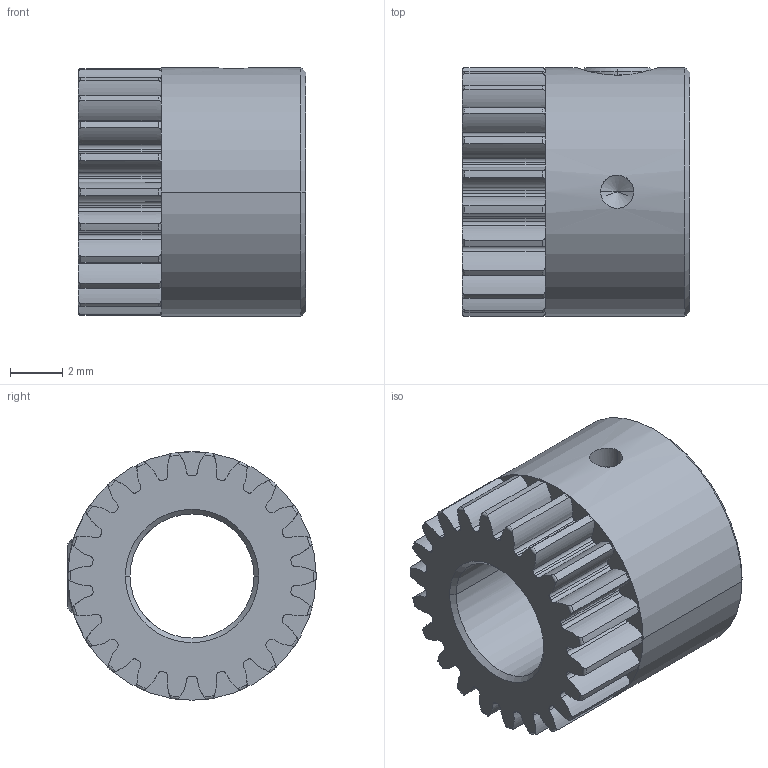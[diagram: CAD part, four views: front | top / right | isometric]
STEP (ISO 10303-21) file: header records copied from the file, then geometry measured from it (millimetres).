
FILE_DESCRIPTION((''),'2;1');
FILE_NAME('55521','2011-01-23T',('carefree'),(''),'PRO/ENGINEER BY PARAMETRIC TECHNOLOGY CORPORATION, 2005030','PRO/ENGINEER BY PARAMETRIC TECHNOLOGY CORPORATION, 2005030','');
FILE_SCHEMA(('CONFIG_CONTROL_DESIGN'));
Length unit declared in the file: inch
Products named in the file (1): 55521
Bounding box: 8.71 x 9.53 x 9.53 mm (x, y, z)
Volume: 419.2 mm3; surface area: 620.2 mm2
Topology: 2 solids, 2 shells, 220 faces, 623 edges, 407 vertices
Faces by surface type: cylinder 100, torus 44, extrusion 44, plane 18, cone 12, bspline 2
Entity records: 9746 total; most frequent: CARTESIAN_POINT 4143, ORIENTED_EDGE 1242, DIRECTION 1075, EDGE_CURVE 621, AXIS2_PLACEMENT_3D 422, VERTEX_POINT 407, CIRCLE 248, VECTOR 231
